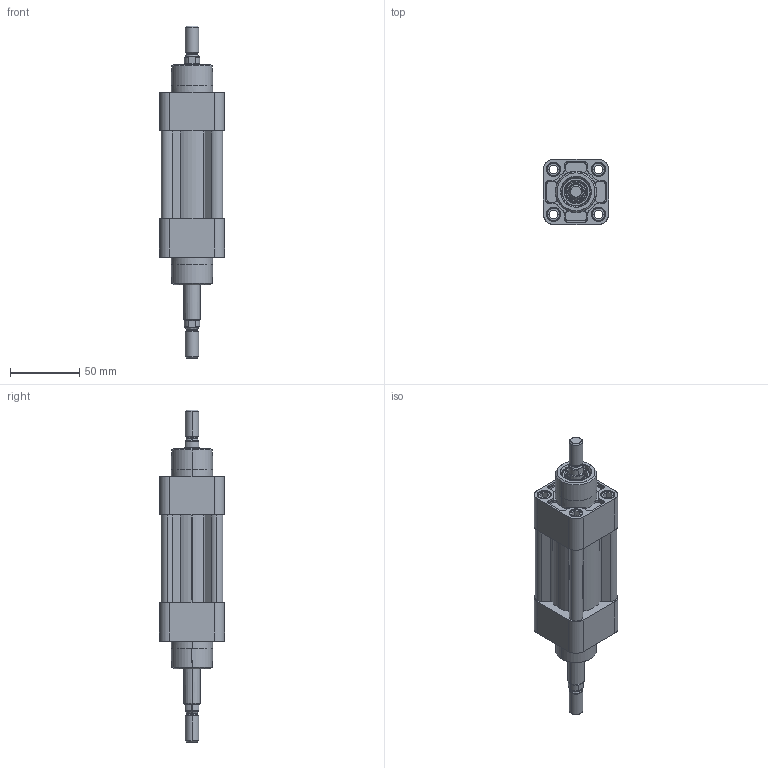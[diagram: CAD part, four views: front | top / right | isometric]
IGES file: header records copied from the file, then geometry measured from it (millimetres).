
Start section: SolidWorks IGES file using analytic representation for surfaces
Global section: file name: K:\Disegni Esecutivi\Cilindri\2_DISEGNI_cilindri_in_produzione\21_Cilindri blue air\1_CILINDRI SERIE BLUE AIR\E\E32\complessivi serie E32\E3D_EL32G\EL0320025G.igs; native system: SolidWorks 2013; preprocessor: SolidWorks 2013; author: Cad01; date: 140423.155951; units: millimetre
Bounding box: 47 x 47 x 240 mm (x, y, z)
Surface area: 51597.1 mm2 (no closed solid volume)
Topology: 0 solids, 0 shells, 437 faces, 4662 edges, 4662 vertices
Faces by surface type: revolution 243, bspline 194
